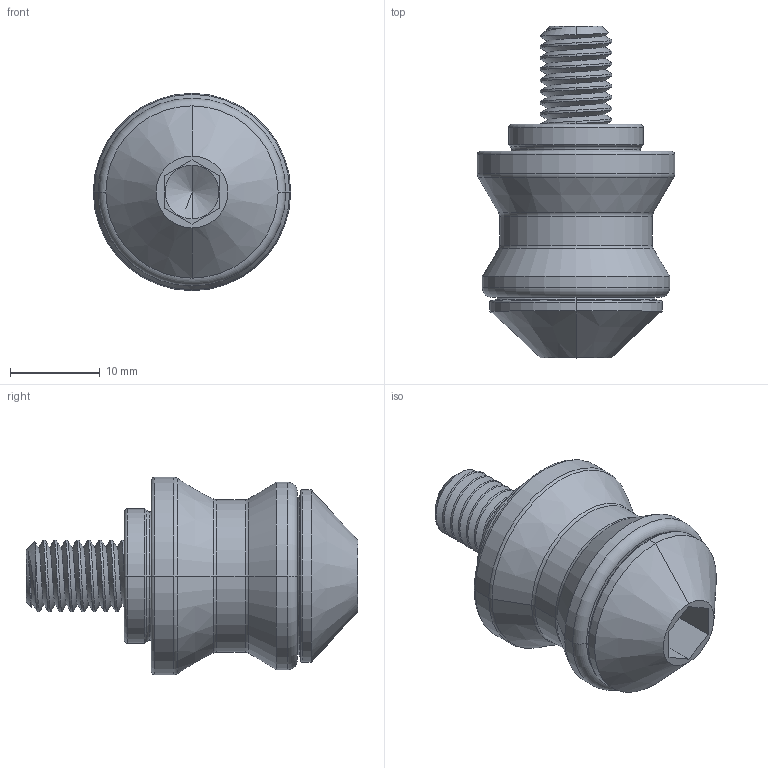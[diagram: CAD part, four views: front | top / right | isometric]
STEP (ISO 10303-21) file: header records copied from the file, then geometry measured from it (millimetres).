
FILE_DESCRIPTION (( 'STEP AP214' ), '1' );
FILE_NAME ('DWJT-10.STEP', '2021-09-28T08:49:18', ( '' ), ( '' ), 'SwSTEP 2.0', 'SolidWorks 2018', '' );
FILE_SCHEMA (( 'AUTOMOTIVE_DESIGN' ));
Length unit declared in the file: millimetre
Products named in the file (3): 嶺間; DWJT-10; 嶺間嘐隅蹟佪
Assembly tree (2 placements, depth 2):
  DWJT-10
    嶺間
    嶺間嘐隅蹟佪
Bounding box: 22 x 37 x 22 mm (x, y, z)
Volume: 6716.8 mm3; surface area: 4101.4 mm2
Topology: 2 solids, 2 shells, 171 faces, 417 edges, 261 vertices
Faces by surface type: plane 64, cylinder 40, torus 24, bspline 23, cone 20
Entity records: 7821 total; most frequent: CARTESIAN_POINT 3949, ORIENTED_EDGE 830, DIRECTION 717, EDGE_CURVE 415, VERTEX_POINT 261, AXIS2_PLACEMENT_3D 246, LINE 225, VECTOR 225
